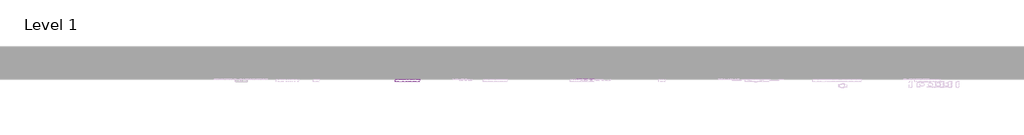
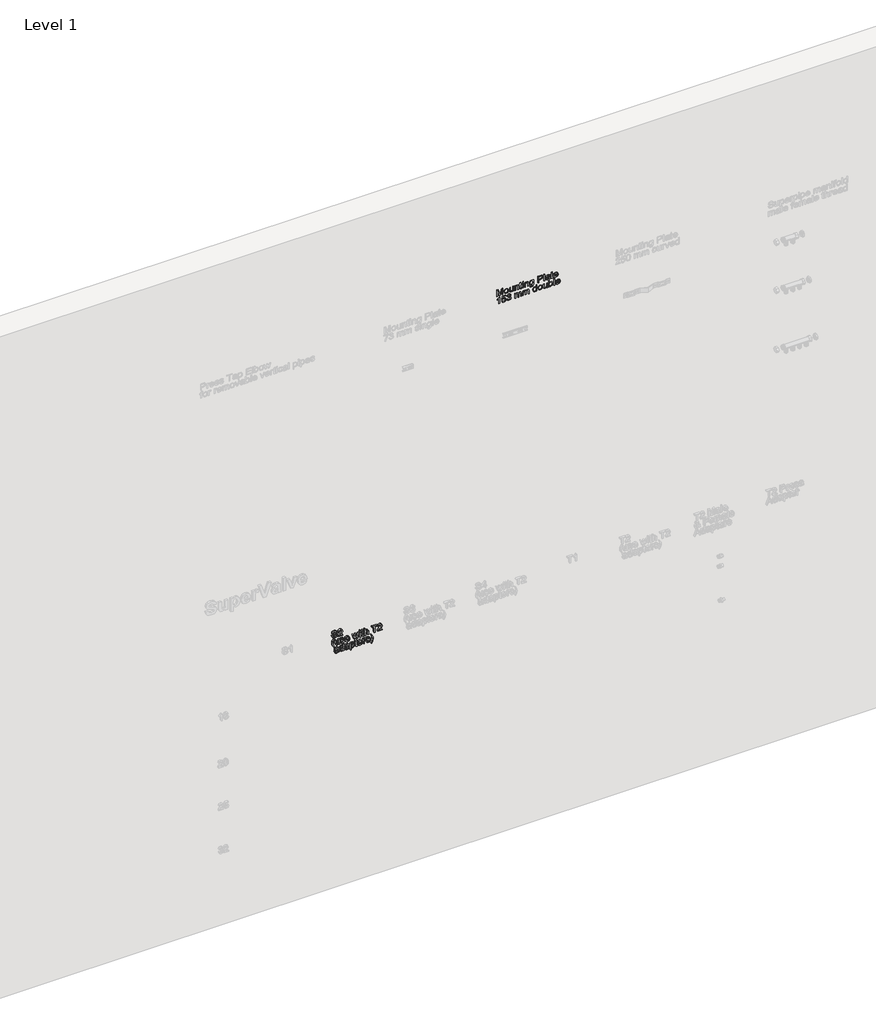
# One storey, part 13 of 57: 2 proxies.
"""IFC4 building model written with IfcOpenShell, lengths in millimetres."""

from ifc_helpers import new_model, si_unit, frame, origin, place, context, project, spatial, polyline, outline, extrude, element, save

model = new_model("IFC4")

# Units and contexts
model_context = context("Model", 3, world=origin())
ifc_project = project(units=[si_unit("LENGTHUNIT", "METRE", prefix="MILLI")], contexts=[model_context])

# Site, building, storey
site = spatial("IfcSite", under=ifc_project)
building = spatial("IfcBuilding", under=site)
storey = spatial("IfcBuildingStorey", under=building, Name="Level 1", Elevation=27.3876384)

# Proxies
placement = place(None, origin())
element("IfcBuildingElementProxy", 1, Name="50mm Arial", ObjectType="50mm Arial", at=placement, inside=storey, context=model_context, shape_type="SweptSolid", body=[
    extrude(outline(polyline([(4250.1944926, 13699.2765914), (4250.1944926, 13705.5551108), (4294.1441282, 13705.5551108), (4250.1944926, 13718.1734632), (4250.1944926, 13726.6838), (4294.1441282, 13739.3021524), (4250.1944926, 13739.3021524), (4250.1944926, 13745.5806718), (4300.4226476, 13745.5806718), (4300.4226476, 13734.7772039), (4265.6332736, 13724.6727118), (4257.6257089, 13722.4286316), (4265.020137, 13720.3562297), (4300.4226476, 13710.0800593), (4300.4226476, 13699.2765914), (4250.1944926, 13699.2765914)])), frame((0.0, 4542.8703674, 0.0), z_axis=(0.0, 1.0, 0.0), x_axis=(0.0, 0.0, 1.0)), (0.0, 0.0, 1.0), 2.0),
    extrude(outline(polyline([(4268.6376432, 13754.213636), (4254.3638218, 13758.7692414), (4249.4096776, 13770.7070121), (4251.6598892, 13779.2112176), (4257.9813281, 13785.140249), (4269.152678, 13787.1758628), (4282.8930706, 13782.5712064), (4287.8656089, 13770.7070121), (4283.7821187, 13759.6460268), (4277.5311905, 13755.5717337), (4268.6376432, 13754.213636)]), holes=[polyline([(4268.649906, 13760.4921554), (4278.368122, 13763.3984231), (4281.5870895, 13770.7070121), (4278.3558593, 13777.9726815), (4268.8461097, 13780.8973434), (4258.9378213, 13777.9910756), (4255.688197, 13770.7070121), (4258.9194272, 13763.3984231), (4268.649906, 13760.4921554)])]), frame((0.0, 4542.8703674, 0.0), z_axis=(0.0, 1.0, 0.0), x_axis=(0.0, 0.0, 1.0)), (0.0, 0.0, 1.0), 2.0),
    extrude(outline(polyline([(4250.1944926, 13817.7836448), (4250.1944926, 13824.0621641), (4287.0807939, 13824.0621641), (4287.0807939, 13817.7836448), (4267.8896165, 13817.7836448), (4260.8937272, 13816.7658379), (4257.0861486, 13813.3016158), (4255.688197, 13808.0592973), (4257.0554918, 13803.3810646), (4260.8140195, 13800.8978612), (4267.2151662, 13800.5177164), (4287.0807939, 13800.5177164), (4287.0807939, 13794.2391971), (4264.2598475, 13794.2391971), (4258.4227865, 13794.6070791), (4253.7997361, 13796.4771459), (4250.6604764, 13800.5483733), (4249.4096776, 13806.4528793), (4251.1908396, 13812.8662887), (4256.5343256, 13817.7836448), (4250.1944926, 13817.7836448)])), frame((0.0, 4542.8703674, 0.0), z_axis=(0.0, 1.0, 0.0), x_axis=(0.0, 0.0, 1.0)), (0.0, 0.0, 1.0), 2.0),
    extrude(outline(polyline([(4250.1944926, 13832.6951283), (4250.1944926, 13838.9736477), (4269.7658147, 13838.9736477), (4279.1222801, 13841.8369959), (4281.5870895, 13848.6489441), (4280.4895749, 13852.9592949), (4277.5526503, 13855.5160747), (4271.9976321, 13856.239576), (4250.1944926, 13856.239576), (4250.1944926, 13862.5180954), (4272.8437607, 13862.5180954), (4278.9138136, 13862.1870016), (4283.5307327, 13860.304672), (4286.6699924, 13856.2579701), (4287.8656089, 13850.3289386), (4286.3818181, 13843.7745077), (4281.930446, 13838.9736477), (4287.0807939, 13838.9736477), (4287.0807939, 13832.6951283), (4250.1944926, 13832.6951283)])), frame((0.0, 4542.8703674, 0.0), z_axis=(0.0, 1.0, 0.0), x_axis=(0.0, 0.0, 1.0)), (0.0, 0.0, 1.0), 2.0),
    extrude(outline(polyline([(4255.4306796, 13884.4929132), (4255.688197, 13881.7583237), (4257.2578269, 13878.5454876), (4260.4951884, 13878.2143938), (4280.8022746, 13878.2143938), (4280.8022746, 13884.4929132), (4287.0807939, 13884.4929132), (4287.0807939, 13878.2143938), (4299.7359346, 13878.2143938), (4296.0448519, 13871.9358744), (4287.0807939, 13871.9358744), (4287.0807939, 13867.2269849), (4280.8022746, 13867.2269849), (4280.8022746, 13871.9358744), (4260.3112474, 13871.9358744), (4253.1865994, 13872.6961639), (4250.45201, 13875.3203888), (4249.4096776, 13880.5811013), (4250.0105516, 13885.2777281), (4255.4306796, 13884.4929132)])), frame((0.0, 4542.8703674, 0.0), z_axis=(0.0, 1.0, 0.0), x_axis=(0.0, 0.0, 1.0)), (0.0, 0.0, 1.0), 2.0),
    extrude(outline(polyline([(13897.049952, 4542.8703674), (13890.7714326, 4542.8703674), (13890.7714326, 4544.8703674), (13897.049952, 4544.8703674), (13897.049952, 4542.8703674)])), frame((0.0, 0.0, 4294.1441282), z_axis=(0.0, 0.0, 1.0), x_axis=(1.0, 0.0, 0.0)), (0.0, 0.0, 1.0), 6.2785194),
    extrude(outline(polyline([(13897.049952, 4542.8703674), (13890.7714326, 4542.8703674), (13890.7714326, 4544.8703674), (13897.049952, 4544.8703674), (13897.049952, 4542.8703674)])), frame((0.0, 0.0, 4250.1944926), z_axis=(0.0, 0.0, 1.0), x_axis=(1.0, 0.0, 0.0)), (0.0, 0.0, 1.0), 36.8863014),
    extrude(outline(polyline([(4250.1944926, 13906.4677311), (4250.1944926, 13912.7462504), (4269.7658147, 13912.7462504), (4279.1222801, 13915.6095986), (4281.5870895, 13922.4215469), (4280.4895749, 13926.7318976), (4277.5526503, 13929.2886775), (4271.9976321, 13930.0121787), (4250.1944926, 13930.0121787), (4250.1944926, 13936.2906981), (4272.8437607, 13936.2906981), (4278.9138136, 13935.9596043), (4283.5307327, 13934.0772748), (4286.6699924, 13930.0305728), (4287.8656089, 13924.1015414), (4286.3818181, 13917.5471105), (4281.930446, 13912.7462504), (4287.0807939, 13912.7462504), (4287.0807939, 13906.4677311), (4250.1944926, 13906.4677311)])), frame((0.0, 4542.8703674, 0.0), z_axis=(0.0, 1.0, 0.0), x_axis=(0.0, 0.0, 1.0)), (0.0, 0.0, 1.0), 2.0),
    extrude(outline(polyline([(4247.0552329, 13943.3540324), (4238.2199336, 13947.1983993), (4235.283009, 13957.6401166), (4237.3676737, 13966.8065096), (4243.0391877, 13972.2450318), (4255.2344759, 13973.9618144), (4287.0807939, 13973.9618144), (4287.0807939, 13967.6832951), (4282.3719044, 13967.6832951), (4287.8656089, 13957.5665402), (4285.4375877, 13949.5651068), (4278.552063, 13944.3657079), (4268.8215842, 13942.5692175), (4255.6759343, 13946.5729999), (4251.564853, 13951.3999182), (4250.1944926, 13957.8731085), (4254.9033821, 13967.6832951), (4247.5825304, 13967.2540994), (4243.143421, 13964.1884161), (4241.5615284, 13957.7627439), (4242.95948, 13951.6681655), (4246.2704179, 13949.6325518), (4247.0552329, 13943.3540324)]), holes=[polyline([(4269.2507799, 13948.8477369), (4278.4784866, 13951.5639323), (4281.5870895, 13958.1551514), (4278.4294357, 13964.8873919), (4269.0668389, 13967.6832951), (4259.5141698, 13964.9670997), (4256.4730119, 13958.2532532), (4259.5325639, 13951.5271441), (4269.2507799, 13948.8477369)])]), frame((0.0, 4542.8703674, 0.0), z_axis=(0.0, 1.0, 0.0), x_axis=(0.0, 0.0, 1.0)), (0.0, 0.0, 1.0), 2.0),
    extrude(outline(polyline([(4250.1944926, 14003.7847815), (4250.1944926, 14010.0633009), (4270.5996806, 14010.0633009), (4270.5996806, 14022.8288061), (4275.03879, 14037.4153272), (4285.8913088, 14041.4558978), (4292.7400453, 14039.9598444), (4297.5960876, 14036.0051129), (4299.944401, 14029.9044032), (4300.4226476, 14022.3996105), (4300.4226476, 14003.7847815), (4250.1944926, 14003.7847815)]), holes=[polyline([(4276.8781999, 14010.0633009), (4294.1441282, 14010.0633009), (4294.1441282, 14023.0495353), (4293.7149326, 14029.3280547), (4290.8699785, 14033.564829), (4285.6705796, 14035.1773784), (4279.1835938, 14032.4427889), (4276.8781999, 14023.1966881), (4276.8781999, 14010.0633009)])]), frame((0.0, 4542.8703674, 0.0), z_axis=(0.0, 1.0, 0.0), x_axis=(0.0, 0.0, 1.0)), (0.0, 0.0, 1.0), 2.0),
    extrude(outline(polyline([(14055.5825664, 4542.8703674), (14049.3040471, 4542.8703674), (14049.3040471, 4544.8703674), (14055.5825664, 4544.8703674), (14055.5825664, 4542.8703674)])), frame((0.0, 0.0, 4250.1944926), z_axis=(0.0, 0.0, 1.0), x_axis=(1.0, 0.0, 0.0)), (0.0, 0.0, 1.0), 50.2281551),
    extrude(outline(polyline([(4254.9033821, 14088.5447932), (4250.1944926, 14090.114423), (4250.1944926, 14096.3929424), (4255.4735992, 14095.1421436), (4266.3813003, 14094.8233126), (4274.1926614, 14094.8233126), (4279.6863658, 14094.5167443), (4283.9476656, 14092.5914951), (4286.7497001, 14088.2934072), (4287.8656089, 14080.6843812), (4286.6025473, 14072.400905), (4283.0095665, 14066.931726), (4276.8781999, 14064.2155306), (4276.093385, 14070.49405), (4280.3792103, 14073.5229451), (4281.5870895, 14079.8750408), (4279.772205, 14086.8157478), (4273.7389402, 14088.508005), (4271.5806992, 14077.6186979), (4270.6364688, 14072.1863072), (4268.5763296, 14067.7901173), (4264.971086, 14064.6324635), (4260.0046791, 14063.4307157), (4252.3895218, 14066.6128949), (4249.4096776, 14075.730237), (4250.6482137, 14082.4563462), (4254.9033821, 14088.5447932)]), holes=[polyline([(4267.4604209, 14088.5447932), (4265.6823246, 14088.508005), (4260.8262822, 14087.5147236), (4257.1903818, 14083.4189707), (4255.688197, 14077.066875), (4257.0493604, 14071.5793019), (4260.4461375, 14069.709235), (4262.8618959, 14070.5676264), (4264.5173649, 14073.0140416), (4265.5351718, 14078.4157756), (4267.4604209, 14088.5447932)])]), frame((0.0, 4542.8703674, 0.0), z_axis=(0.0, 1.0, 0.0), x_axis=(0.0, 0.0, 1.0)), (0.0, 0.0, 1.0), 2.0),
    extrude(outline(polyline([(4255.4306796, 14116.7981304), (4255.688197, 14114.0635409), (4257.2578269, 14110.8507048), (4260.4951884, 14110.519611), (4280.8022746, 14110.519611), (4280.8022746, 14116.7981304), (4287.0807939, 14116.7981304), (4287.0807939, 14110.519611), (4299.7359346, 14110.519611), (4296.0448519, 14104.2410917), (4287.0807939, 14104.2410917), (4287.0807939, 14099.5322021), (4280.8022746, 14099.5322021), (4280.8022746, 14104.2410917), (4260.3112474, 14104.2410917), (4253.1865994, 14105.0013811), (4250.45201, 14107.625606), (4249.4096776, 14112.8863185), (4250.0105516, 14117.5829454), (4255.4306796, 14116.7981304)])), frame((0.0, 4542.8703674, 0.0), z_axis=(0.0, 1.0, 0.0), x_axis=(0.0, 0.0, 1.0)), (0.0, 0.0, 1.0), 2.0),
    extrude(outline(polyline([(4261.1819015, 14148.9019659), (4257.0003095, 14144.8552639), (4255.688197, 14138.6993719), (4258.5208884, 14130.6120994), (4266.6756059, 14127.0007244), (4266.6756059, 14155.2172735), (4268.3678631, 14155.2540617), (4282.7520491, 14150.4899898), (4287.8656089, 14138.2211253), (4282.7397864, 14125.5905101), (4268.3310749, 14120.722205), (4254.3822159, 14125.5414592), (4249.4096776, 14138.5767445), (4252.2914199, 14149.3005047), (4260.3970866, 14155.0578579), (4261.1819015, 14148.9019659)]), holes=[polyline([(4272.9541253, 14127.0007244), (4279.2387761, 14130.4649466), (4281.5870895, 14138.1965998), (4278.6440335, 14146.461682), (4272.9541253, 14148.9755423), (4272.9541253, 14127.0007244)])]), frame((0.0, 4542.8703674, 0.0), z_axis=(0.0, 1.0, 0.0), x_axis=(0.0, 0.0, 1.0)), (0.0, 0.0, 1.0), 2.0),
    extrude(outline(polyline([(4189.2070836, 13720.4665943), (4239.4352387, 13720.4665943), (4239.4352387, 13716.4198923), (4232.7520491, 13710.8342174), (4226.8781999, 13701.6310361), (4220.9430371, 13701.6310361), (4224.1129536, 13708.2406493), (4228.3497279, 13714.1880749), (4189.2070836, 13714.1880749), (4189.2070836, 13720.4665943)])), frame((0.0, 4542.8703674, 0.0), z_axis=(0.0, 1.0, 0.0), x_axis=(0.0, 0.0, 1.0)), (0.0, 0.0, 1.0), 2.0),
    extrude(outline(polyline([(4202.5489373, 13735.3780778), (4192.291161, 13740.2770397), (4188.4222687, 13751.3564192), (4189.9275192, 13758.7508473), (4194.4432707, 13764.4039673), (4206.0928672, 13768.3403046), (4217.6688873, 13763.9686402), (4222.1693104, 13753.2326173), (4218.5395414, 13744.0478302), (4232.3719044, 13746.7333688), (4232.3719044, 13765.9858598), (4238.6504238, 13765.9858598), (4238.6504238, 13741.6565972), (4212.7515313, 13736.1628928), (4211.9667164, 13742.4414121), (4214.7994078, 13745.9669479), (4215.890791, 13751.4790465), (4213.1562015, 13759.431429), (4205.7004597, 13762.0617852), (4197.7112891, 13759.2536193), (4194.7007881, 13751.3809446), (4196.8651605, 13744.8203824), (4203.3337522, 13741.6565972), (4202.5489373, 13735.3780778)])), frame((0.0, 4542.8703674, 0.0), z_axis=(0.0, 1.0, 0.0), x_axis=(0.0, 0.0, 1.0)), (0.0, 0.0, 1.0), 2.0),
    extrude(outline(polyline([(4202.5489373, 13773.8340091), (4192.3586061, 13778.8249415), (4188.4222687, 13789.8368759), (4193.0330564, 13801.9892444), (4204.26572, 13806.7962358), (4212.4327003, 13804.3927401), (4216.7246569, 13797.550135), (4220.8817234, 13802.7004829), (4226.6697335, 13804.4417911), (4233.0034352, 13802.6085125), (4237.7123247, 13797.3110117), (4239.4352387, 13789.738774), (4235.9403598, 13779.7569092), (4226.093385, 13774.618824), (4225.3085701, 13780.8973434), (4231.194682, 13783.9752894), (4233.1567193, 13789.9595032), (4231.2130761, 13795.8701406), (4226.3018515, 13798.1632717), (4220.7590961, 13794.9994865), (4219.0300507, 13786.8692944), (4212.7515313, 13786.1703186), (4213.4382444, 13790.5726398), (4210.8692018, 13797.7095505), (4204.3760846, 13800.5177164), (4197.4844285, 13797.6850251), (4194.7007881, 13790.057605), (4196.7241391, 13783.5767506), (4203.3337522, 13780.1125284), (4202.5489373, 13773.8340091)])), frame((0.0, 4542.8703674, 0.0), z_axis=(0.0, 1.0, 0.0), x_axis=(0.0, 0.0, 1.0)), (0.0, 0.0, 1.0), 2.0),
    extrude(outline(polyline([(4189.2070836, 13833.4799432), (4189.2070836, 13839.7584626), (4207.8096499, 13839.7584626), (4215.3021798, 13840.7149558), (4219.2507799, 13843.8051645), (4220.5996806, 13848.4527404), (4218.5763296, 13853.2168123), (4212.4940139, 13854.6699461), (4189.2070836, 13854.6699461), (4189.2070836, 13860.9484655), (4210.0292046, 13860.9484655), (4218.0858203, 13863.4071435), (4220.5996806, 13869.5814297), (4219.6186619, 13873.1682791), (4217.0373566, 13875.2774692), (4211.7950381, 13875.8599491), (4189.2070836, 13875.8599491), (4189.2070836, 13882.1384684), (4214.4928394, 13882.1384684), (4223.8431735, 13879.2628575), (4226.8781999, 13871.0529577), (4225.0541184, 13864.8664088), (4219.5818737, 13859.9674469), (4224.9590822, 13856.5093561), (4226.8781999, 13850.218574), (4224.9958704, 13844.0749447), (4220.0233321, 13839.7584626), (4226.093385, 13839.7584626), (4226.093385, 13833.4799432), (4189.2070836, 13833.4799432)])), frame((0.0, 4542.8703674, 0.0), z_axis=(0.0, 1.0, 0.0), x_axis=(0.0, 0.0, 1.0)), (0.0, 0.0, 1.0), 2.0),
    extrude(outline(polyline([(4189.2070836, 13891.5562475), (4189.2070836, 13897.8347669), (4207.8096499, 13897.8347669), (4215.3021798, 13898.7912601), (4219.2507799, 13901.8814688), (4220.5996806, 13906.5290447), (4218.5763296, 13911.2931166), (4212.4940139, 13912.7462504), (4189.2070836, 13912.7462504), (4189.2070836, 13919.0247698), (4210.0292046, 13919.0247698), (4218.0858203, 13921.4834478), (4220.5996806, 13927.657734), (4219.6186619, 13931.2445834), (4217.0373566, 13933.3537735), (4211.7950381, 13933.9362534), (4189.2070836, 13933.9362534), (4189.2070836, 13940.2147727), (4214.4928394, 13940.2147727), (4223.8431735, 13937.3391618), (4226.8781999, 13929.129262), (4225.0541184, 13922.9427131), (4219.5818737, 13918.0437512), (4224.9590822, 13914.5856604), (4226.8781999, 13908.2948783), (4224.9958704, 13902.151249), (4220.0233321, 13897.8347669), (4226.093385, 13897.8347669), (4226.093385, 13891.5562475), (4189.2070836, 13891.5562475)])), frame((0.0, 4542.8703674, 0.0), z_axis=(0.0, 1.0, 0.0), x_axis=(0.0, 0.0, 1.0)), (0.0, 0.0, 1.0), 2.0),
    extrude(outline(polyline([(4189.2070836, 13992.0125577), (4189.2070836, 13998.2910771), (4239.4352387, 13998.2910771), (4239.4352387, 13992.0125577), (4220.7223079, 13992.0125577), (4225.1675487, 13987.8800166), (4226.8781999, 13982.0920065), (4224.486967, 13974.0783104), (4217.6075737, 13968.6949705), (4207.6134461, 13966.8984801), (4197.62545, 13968.8482547), (4190.8502899, 13974.3419592), (4188.4222687, 13982.116532), (4190.0991975, 13987.8585568), (4195.1299838, 13992.0125577), (4189.2070836, 13992.0125577)]), holes=[polyline([(4207.6379716, 13973.1769995), (4217.478815, 13975.8257499), (4220.5996806, 13982.4353631), (4217.3500563, 13989.2473113), (4207.159725, 13992.0125577), (4197.7726028, 13989.2963623), (4194.7007881, 13982.6928805), (4197.9197556, 13976.0096909), (4207.6379716, 13973.1769995)])]), frame((0.0, 4542.8703674, 0.0), z_axis=(0.0, 1.0, 0.0), x_axis=(0.0, 0.0, 1.0)), (0.0, 0.0, 1.0), 2.0),
    extrude(outline(polyline([(4207.6502343, 14006.1392263), (4193.3764129, 14010.6948317), (4188.4222687, 14022.6326024), (4190.6724802, 14031.1368079), (4196.9939192, 14037.0658393), (4208.1652691, 14039.1014531), (4221.9056616, 14034.4967967), (4226.8781999, 14022.6326024), (4222.7947098, 14011.5716171), (4216.5437816, 14007.497324), (4207.6502343, 14006.1392263)]), holes=[polyline([(4207.6624971, 14012.4177457), (4217.3807131, 14015.3240134), (4220.5996806, 14022.6326024), (4217.3684504, 14029.8982718), (4207.8587008, 14032.8229337), (4197.9504124, 14029.9166659), (4194.7007881, 14022.6326024), (4197.9320183, 14015.3240134), (4207.6624971, 14012.4177457)])]), frame((0.0, 4542.8703674, 0.0), z_axis=(0.0, 1.0, 0.0), x_axis=(0.0, 0.0, 1.0)), (0.0, 0.0, 1.0), 2.0),
    extrude(outline(polyline([(4189.2070836, 14069.709235), (4189.2070836, 14075.9877544), (4226.093385, 14075.9877544), (4226.093385, 14069.709235), (4206.9022076, 14069.709235), (4199.9063183, 14068.6914282), (4196.0987397, 14065.2272061), (4194.7007881, 14059.9848876), (4196.0680828, 14055.3066549), (4199.8266106, 14052.8234515), (4206.2277573, 14052.4433067), (4226.093385, 14052.4433067), (4226.093385, 14046.1647874), (4203.2724386, 14046.1647874), (4197.4353776, 14046.5326694), (4192.8123272, 14048.4027362), (4189.6730675, 14052.4739636), (4188.4222687, 14058.3784696), (4190.2034307, 14064.791879), (4195.5469167, 14069.709235), (4189.2070836, 14069.709235)])), frame((0.0, 4542.8703674, 0.0), z_axis=(0.0, 1.0, 0.0), x_axis=(0.0, 0.0, 1.0)), (0.0, 0.0, 1.0), 2.0),
    extrude(outline(polyline([(4189.2070836, 14090.899238), (4195.0809328, 14090.899238), (4190.0869347, 14095.139078), (4188.4222687, 14100.7216872), (4193.5848794, 14111.5190238), (4208.2020573, 14116.0133155), (4215.6884559, 14114.9280636), (4221.6665383, 14111.9298254), (4225.5109052, 14107.0492576), (4226.8781999, 14100.7584754), (4220.808147, 14090.899238), (4239.4352387, 14090.899238), (4239.4352387, 14084.6207186), (4189.2070836, 14084.6207186), (4189.2070836, 14090.899238)]), holes=[polyline([(4207.9077517, 14090.899238), (4217.3377935, 14093.7319293), (4220.5996806, 14100.4519071), (4217.4481581, 14107.0186007), (4207.6870225, 14109.7347961), (4197.9626751, 14106.9021048), (4194.7007881, 14100.182127), (4199.1276348, 14092.6160206), (4207.9077517, 14090.899238)])]), frame((0.0, 4542.8703674, 0.0), z_axis=(0.0, 1.0, 0.0), x_axis=(0.0, 0.0, 1.0)), (0.0, 0.0, 1.0), 2.0),
    extrude(outline(polyline([(14129.3551692, 4542.8703674), (14123.0766498, 4542.8703674), (14123.0766498, 4544.8703674), (14129.3551692, 4544.8703674), (14129.3551692, 4542.8703674)])), frame((0.0, 0.0, 4189.2070836), z_axis=(0.0, 0.0, 1.0), x_axis=(1.0, 0.0, 0.0)), (0.0, 0.0, 1.0), 50.2281551),
    extrude(outline(polyline([(4200.1944926, 14164.5982643), (4196.0129005, 14160.5515624), (4194.7007881, 14154.3956703), (4197.5334795, 14146.3083978), (4205.688197, 14142.6970229), (4205.688197, 14170.9135719), (4207.3804542, 14170.9503601), (4221.7646402, 14166.1862883), (4226.8781999, 14153.9174237), (4221.7523775, 14141.2868086), (4207.343666, 14136.4185035), (4193.394807, 14141.2377576), (4188.4222687, 14154.273043), (4191.304011, 14164.9968032), (4199.4096776, 14170.7541564), (4200.1944926, 14164.5982643)]), holes=[polyline([(4211.9667164, 14142.6970229), (4218.2513672, 14146.161245), (4220.5996806, 14153.8928983), (4217.6566246, 14162.1579804), (4211.9667164, 14164.6718407), (4211.9667164, 14142.6970229)])]), frame((0.0, 4542.8703674, 0.0), z_axis=(0.0, 1.0, 0.0), x_axis=(0.0, 0.0, 1.0)), (0.0, 0.0, 1.0), 2.0),
])
element("IfcBuildingElementProxy", 2, Name="50mm Arial", ObjectType="50mm Arial", at=placement, inside=storey, context=model_context, shape_type="SweptSolid", body=[
    extrude(outline(polyline([(2015.6028383, 12468.3036605), (2006.013381, 12471.0137245), (1999.6612852, 12478.1077157), (1997.5520951, 12489.3219851), (1999.508001, 12498.819472), (2004.9894428, 12505.2941951), (2012.5003668, 12507.5444066), (2019.6004893, 12505.5885007), (2024.6895236, 12499.5123164), (2027.841046, 12488.4022802), (2031.3481877, 12478.1506352), (2035.701458, 12476.1518097), (2040.9131196, 12478.9722383), (2043.0713606, 12487.9608218), (2040.8885941, 12496.9248797), (2034.4383965, 12500.4810723), (2034.4383965, 12506.7595917), (2042.2988084, 12504.2702569), (2047.559521, 12497.648381), (2049.34988, 12487.7155671), (2047.6392287, 12478.4081526), (2042.6237709, 12472.0499255), (2035.517517, 12469.8732903), (2029.2757858, 12471.6329925), (2024.6036845, 12476.9734128), (2021.5073444, 12486.8142562), (2019.10998, 12495.9561238), (2016.2588946, 12500.2235549), (2012.3409513, 12501.2658872), (2008.1287025, 12499.874067), (2004.97718, 12495.6372927), (2003.8306145, 12489.0767305), (2005.345062, 12481.5474123), (2009.3181876, 12476.6055308), (2015.6028383, 12474.5821799), (2015.6028383, 12468.3036605)])), frame((0.0, 4529.8703674, 0.0), z_axis=(0.0, 1.0, 0.0), x_axis=(0.0, 0.0, 1.0)), (0.0, 0.0, 1.0), 15.0),
    extrude(outline(polyline([(2004.6154294, 12546.7851528), (2004.6154294, 12522.1247964), (2007.8098714, 12524.9574877), (2013.8492675, 12532.1802376), (2022.4515748, 12541.1749524), (2028.6074669, 12544.8844291), (2034.5610238, 12546.0003379), (2044.5428886, 12541.8616654), (2048.5650651, 12530.6228705), (2044.9475588, 12519.4208637), (2034.4383965, 12514.6077409), (2033.6535816, 12520.8862603), (2039.9934146, 12523.5288793), (2042.2865457, 12530.4879804), (2039.9382323, 12537.1650386), (2034.1808791, 12539.7218185), (2027.0684938, 12537.0117544), (2016.6083825, 12526.1714983), (2009.3304503, 12518.3110864), (2002.6656548, 12514.4973763), (1998.33691, 12513.822926), (1998.33691, 12546.7851528), (2004.6154294, 12546.7851528)])), frame((0.0, 4529.8703674, 0.0), z_axis=(0.0, 1.0, 0.0), x_axis=(0.0, 0.0, 1.0)), (0.0, 0.0, 1.0), 15.0),
    extrude(outline(polyline([(1923.2228325, 12482.4303291), (1923.2228325, 12487.1392186), (1939.305407, 12478.8986619), (1955.4002443, 12476.1518097), (1967.9940713, 12477.7337023), (1977.6325796, 12481.2653694), (1987.5776562, 12487.1392186), (1987.5776562, 12482.4303291), (1970.7041353, 12472.5956171), (1955.4370325, 12469.8732903), (1937.950375, 12473.5153221), (1923.2228325, 12482.4303291)])), frame((0.0, 4529.8703674, 0.0), z_axis=(0.0, 1.0, 0.0), x_axis=(0.0, 0.0, 1.0)), (0.0, 0.0, 1.0), 15.0),
    extrude(outline(polyline([(1937.3495011, 12516.9621857), (1937.3495011, 12523.2407051), (1974.2358025, 12523.2407051), (1974.2358025, 12516.9621857), (1955.0446251, 12516.9621857), (1948.0487358, 12515.9443789), (1944.2411571, 12512.4801567), (1942.8432056, 12507.2378383), (1944.2105003, 12502.5596056), (1947.969028, 12500.0764021), (1954.3701747, 12499.6962574), (1974.2358025, 12499.6962574), (1974.2358025, 12493.417738), (1951.4148561, 12493.417738), (1945.5777951, 12493.78562), (1940.9547447, 12495.6556868), (1937.815485, 12499.7269142), (1936.5646862, 12505.6314203), (1938.3458482, 12512.0448297), (1943.6893342, 12516.9621857), (1937.3495011, 12516.9621857)])), frame((0.0, 4529.8703674, 0.0), z_axis=(0.0, 1.0, 0.0), x_axis=(0.0, 0.0, 1.0)), (0.0, 0.0, 1.0), 15.0),
    extrude(outline(polyline([(1948.33691, 12529.5192245), (1939.5322676, 12534.3262159), (1936.5646862, 12545.2768366), (1938.1036592, 12553.0514094), (1942.4630608, 12558.3059906), (1948.4718001, 12560.1270065), (1953.9287164, 12558.5757707), (1957.2764425, 12554.2960769), (1960.2317612, 12545.0806329), (1961.5683991, 12539.6727675), (1962.954088, 12537.3305855), (1964.7812352, 12536.5825588), (1967.5526129, 12538.3851806), (1968.742098, 12544.3939198), (1967.4974306, 12549.9182811), (1964.0332085, 12552.2788572), (1964.8180234, 12558.5573766), (1970.4527493, 12556.3991356), (1973.7882127, 12551.5430933), (1975.0206174, 12543.9034105), (1974.2541966, 12538.5016765), (1972.3963925, 12534.5101569), (1968.8218058, 12531.4322109), (1964.1435731, 12530.3040394), (1959.0790643, 12531.7081224), (1955.4922148, 12535.8345321), (1952.4204002, 12545.2890993), (1950.6300411, 12551.7515597), (1947.8096125, 12553.8484871), (1944.3269963, 12551.7638225), (1942.8432056, 12545.3626757), (1944.4618863, 12538.7040116), (1949.1217249, 12535.7977439), (1948.33691, 12529.5192245)])), frame((0.0, 4529.8703674, 0.0), z_axis=(0.0, 1.0, 0.0), x_axis=(0.0, 0.0, 1.0)), (0.0, 0.0, 1.0), 15.0),
    extrude(outline(polyline([(1948.33691, 12593.0156568), (1944.155318, 12588.9689549), (1942.8432056, 12582.8130628), (1945.6758969, 12574.7257903), (1953.8306145, 12571.1144154), (1953.8306145, 12599.3309644), (1955.5228717, 12599.3677526), (1969.9070577, 12594.6036808), (1975.0206174, 12582.3348163), (1969.8947949, 12569.7042011), (1955.4860835, 12564.835896), (1941.5372245, 12569.6551502), (1936.5646862, 12582.6904355), (1939.4464285, 12593.4141957), (1947.5520951, 12599.1715489), (1948.33691, 12593.0156568)]), holes=[polyline([(1960.1091339, 12571.1144154), (1966.3937846, 12574.5786375), (1968.742098, 12582.3102908), (1965.7990421, 12590.5753729), (1960.1091339, 12593.0892332), (1960.1091339, 12571.1144154)])]), frame((0.0, 4529.8703674, 0.0), z_axis=(0.0, 1.0, 0.0), x_axis=(0.0, 0.0, 1.0)), (0.0, 0.0, 1.0), 15.0),
    extrude(outline(polyline([(1937.3495011, 12631.3857489), (1937.3495011, 12639.0622199), (1965.7254657, 12645.2794256), (1958.9809624, 12646.6773772), (1937.3495011, 12651.4966313), (1937.3495011, 12659.0872632), (1974.2358025, 12670.3935032), (1974.2358025, 12663.8452037), (1952.8618586, 12657.4685824), (1945.7862615, 12655.4820196), (1952.4939766, 12654.0963308), (1974.2358025, 12649.0563474), (1974.2358025, 12641.5760802), (1952.4326629, 12636.5115714), (1945.0259721, 12634.9542043), (1952.7147058, 12633.0534807), (1974.2358025, 12626.6891221), (1974.2358025, 12620.1653481), (1937.3495011, 12631.3857489)])), frame((0.0, 4529.8703674, 0.0), z_axis=(0.0, 1.0, 0.0), x_axis=(0.0, 0.0, 1.0)), (0.0, 0.0, 1.0), 15.0),
    extrude(outline(polyline([(12680.9885046, 4529.8703674), (12674.7099852, 4529.8703674), (12674.7099852, 4544.8703674), (12680.9885046, 4544.8703674), (12680.9885046, 4529.8703674)])), frame((0.0, 0.0, 1981.2991368), z_axis=(0.0, 0.0, 1.0), x_axis=(1.0, 0.0, 0.0)), (0.0, 0.0, 1.0), 6.2785194),
    extrude(outline(polyline([(12680.9885046, 4529.8703674), (12674.7099852, 4529.8703674), (12674.7099852, 4544.8703674), (12680.9885046, 4544.8703674), (12680.9885046, 4529.8703674)])), frame((0.0, 0.0, 1937.3495011), z_axis=(0.0, 0.0, 1.0), x_axis=(1.0, 0.0, 0.0)), (0.0, 0.0, 1.0), 36.8863014),
    extrude(outline(polyline([(1942.5856882, 12703.7481374), (1942.8432056, 12701.0135479), (1944.4128354, 12697.8007118), (1947.650197, 12697.469618), (1967.9572831, 12697.469618), (1967.9572831, 12703.7481374), (1974.2358025, 12703.7481374), (1974.2358025, 12697.469618), (1986.8909431, 12697.469618), (1983.1998604, 12691.1910986), (1974.2358025, 12691.1910986), (1974.2358025, 12686.4822091), (1967.9572831, 12686.4822091), (1967.9572831, 12691.1910986), (1947.466256, 12691.1910986), (1940.341608, 12691.9513881), (1937.6070185, 12694.575613), (1936.5646862, 12699.8363255), (1937.1655601, 12704.5329523), (1942.5856882, 12703.7481374)])), frame((0.0, 4529.8703674, 0.0), z_axis=(0.0, 1.0, 0.0), x_axis=(0.0, 0.0, 1.0)), (0.0, 0.0, 1.0), 15.0),
    extrude(outline(polyline([(1937.3495011, 12710.0266568), (1937.3495011, 12716.3051762), (1956.9453487, 12716.3051762), (1963.5549619, 12717.3291144), (1967.3441464, 12720.7626797), (1968.742098, 12725.9068962), (1966.6696961, 12731.572279), (1960.0478202, 12733.5711045), (1937.3495011, 12733.5711045), (1937.3495011, 12739.8496239), (1960.6977451, 12739.8496239), (1968.9505645, 12738.5620369), (1973.408068, 12734.282343), (1975.0206174, 12727.2312714), (1969.10998, 12716.3051762), (1987.5776562, 12716.3051762), (1987.5776562, 12710.0266568), (1937.3495011, 12710.0266568)])), frame((0.0, 4529.8703674, 0.0), z_axis=(0.0, 1.0, 0.0), x_axis=(0.0, 0.0, 1.0)), (0.0, 0.0, 1.0), 15.0),
    extrude(outline(polyline([(1937.3495011, 12781.4448148), (1937.3495011, 12787.7233342), (1981.2991368, 12787.7233342), (1981.2991368, 12804.2044475), (1987.5776562, 12804.2044475), (1987.5776562, 12764.9637014), (1981.2991368, 12764.9637014), (1981.2991368, 12781.4448148), (1937.3495011, 12781.4448148)])), frame((0.0, 4529.8703674, 0.0), z_axis=(0.0, 1.0, 0.0), x_axis=(0.0, 0.0, 1.0)), (0.0, 0.0, 1.0), 15.0),
    extrude(outline(polyline([(1943.6280205, 12841.0907489), (1943.6280205, 12816.4303925), (1946.8224625, 12819.2630839), (1952.8618586, 12826.4858337), (1961.4641659, 12835.4805485), (1967.6200579, 12839.1900253), (1973.5736149, 12840.305934), (1983.5554797, 12836.1672616), (1987.5776562, 12824.9284666), (1983.9601499, 12813.7264599), (1973.4509876, 12808.9133371), (1972.6661726, 12815.1918565), (1979.0060057, 12817.8344755), (1981.2991368, 12824.7935765), (1978.9508234, 12831.4706348), (1973.1934702, 12834.0274146), (1966.0810849, 12831.3173506), (1955.6209735, 12820.4770945), (1948.3430414, 12812.6166825), (1941.6782459, 12808.8029725), (1937.3495011, 12808.1285222), (1937.3495011, 12841.0907489), (1943.6280205, 12841.0907489)])), frame((0.0, 4529.8703674, 0.0), z_axis=(0.0, 1.0, 0.0), x_axis=(0.0, 0.0, 1.0)), (0.0, 0.0, 1.0), 15.0),
    extrude(outline(polyline([(1881.0709817, 12513.0381111), (1876.3620922, 12514.6077409), (1876.3620922, 12520.8862603), (1881.6411988, 12519.6354615), (1892.5489, 12519.3166305), (1900.360261, 12519.3166305), (1905.8539655, 12519.0100622), (1910.1152652, 12517.084813), (1912.9172998, 12512.7867251), (1914.0332085, 12505.1776991), (1912.770147, 12496.8942229), (1909.1771661, 12491.4250439), (1903.0457996, 12488.7088485), (1902.2609846, 12494.9873679), (1906.5468099, 12498.016263), (1907.7546891, 12504.3683587), (1905.9398046, 12511.3090657), (1899.9065399, 12513.0013229), (1897.7482988, 12502.1120158), (1896.8040684, 12496.679625), (1894.7439292, 12492.2834352), (1891.1386857, 12489.1257814), (1886.1722787, 12487.9240336), (1878.5571214, 12491.1062128), (1875.5772773, 12500.2235549), (1876.8158133, 12506.9496641), (1881.0709817, 12513.0381111)]), holes=[polyline([(1893.6280205, 12513.0381111), (1891.8499242, 12513.0013229), (1886.9938818, 12512.0080415), (1883.3579815, 12507.9122886), (1881.8557966, 12501.5601928), (1883.21696, 12496.0726198), (1886.6137371, 12494.2025529), (1889.0294955, 12495.0609443), (1890.6849645, 12497.5073595), (1891.7027714, 12502.9090935), (1893.6280205, 12513.0381111)])]), frame((0.0, 4529.8703674, 0.0), z_axis=(0.0, 1.0, 0.0), x_axis=(0.0, 0.0, 1.0)), (0.0, 0.0, 1.0), 15.0),
    extrude(outline(polyline([(1876.3620922, 12550.7092274), (1876.3620922, 12556.9877468), (1926.5902473, 12556.9877468), (1926.5902473, 12550.7092274), (1907.8773164, 12550.7092274), (1912.3225572, 12546.5766863), (1914.0332085, 12540.7886763), (1911.6419755, 12532.7749801), (1904.7625822, 12527.3916403), (1894.7684547, 12525.5951499), (1884.7804585, 12527.5449244), (1878.0052984, 12533.0386289), (1875.5772773, 12540.8132017), (1877.254206, 12546.5552265), (1882.2849923, 12550.7092274), (1876.3620922, 12550.7092274)]), holes=[polyline([(1894.7929801, 12531.8736692), (1904.6338235, 12534.5224196), (1907.7546891, 12541.1320328), (1904.5050648, 12547.9439811), (1894.3147335, 12550.7092274), (1884.9276113, 12547.993032), (1881.8557966, 12541.3895502), (1885.0747641, 12534.7063606), (1894.7929801, 12531.8736692)])]), frame((0.0, 4529.8703674, 0.0), z_axis=(0.0, 1.0, 0.0), x_axis=(0.0, 0.0, 1.0)), (0.0, 0.0, 1.0), 15.0),
    extrude(outline(polyline([(1881.0709817, 12589.9499736), (1876.3620922, 12591.5196034), (1876.3620922, 12597.7981228), (1881.6411988, 12596.547324), (1892.5489, 12596.2284929), (1900.360261, 12596.2284929), (1905.8539655, 12595.9219246), (1910.1152652, 12593.9966755), (1912.9172998, 12589.6985875), (1914.0332085, 12582.0895616), (1912.770147, 12573.8060853), (1909.1771661, 12568.3369063), (1903.0457996, 12565.6207109), (1902.2609846, 12571.8992303), (1906.5468099, 12574.9281254), (1907.7546891, 12581.2802212), (1905.9398046, 12588.2209282), (1899.9065399, 12589.9131854), (1897.7482988, 12579.0238783), (1896.8040684, 12573.5914875), (1894.7439292, 12569.1952977), (1891.1386857, 12566.0376439), (1886.1722787, 12564.835896), (1878.5571214, 12568.0180753), (1875.5772773, 12577.1354174), (1876.8158133, 12583.8615265), (1881.0709817, 12589.9499736)]), holes=[polyline([(1893.6280205, 12589.9499736), (1891.8499242, 12589.9131854), (1886.9938818, 12588.919904), (1883.3579815, 12584.8241511), (1881.8557966, 12578.4720553), (1883.21696, 12572.9844822), (1886.6137371, 12571.1144154), (1889.0294955, 12571.9728067), (1890.6849645, 12574.419222), (1891.7027714, 12579.820956), (1893.6280205, 12589.9499736)])]), frame((0.0, 4529.8703674, 0.0), z_axis=(0.0, 1.0, 0.0), x_axis=(0.0, 0.0, 1.0)), (0.0, 0.0, 1.0), 15.0),
    extrude(outline(polyline([(1862.2354236, 12604.8614571), (1862.2354236, 12611.1399765), (1881.2671854, 12611.1399765), (1877.1898267, 12615.1192334), (1875.5772773, 12620.582281), (1877.9869043, 12628.5224007), (1884.9153486, 12634.2736226), (1895.0872857, 12636.254054), (1904.7625822, 12634.5004832), (1911.6051873, 12629.3010843), (1914.0332085, 12621.3425705), (1912.2980317, 12615.480984), (1907.0925015, 12611.1399765), (1913.2483936, 12611.1399765), (1913.2483936, 12604.8614571), (1862.2354236, 12604.8614571)]), holes=[polyline([(1894.5109373, 12611.1399765), (1904.3640434, 12614.0401129), (1907.7546891, 12620.7049084), (1904.5663785, 12627.2409451), (1894.9769211, 12629.9755346), (1885.05637, 12627.1735001), (1881.8557966, 12620.447391), (1884.9460054, 12613.8561719), (1894.5109373, 12611.1399765)])]), frame((0.0, 4529.8703674, 0.0), z_axis=(0.0, 1.0, 0.0), x_axis=(0.0, 0.0, 1.0)), (0.0, 0.0, 1.0), 15.0),
    extrude(outline(polyline([(1881.5982792, 12656.659242), (1881.8557966, 12653.9246525), (1883.4254265, 12650.7118164), (1886.662788, 12650.3807226), (1906.9698742, 12650.3807226), (1906.9698742, 12656.659242), (1913.2483936, 12656.659242), (1913.2483936, 12650.3807226), (1925.9035342, 12650.3807226), (1922.2124515, 12644.1022032), (1913.2483936, 12644.1022032), (1913.2483936, 12639.3933137), (1906.9698742, 12639.3933137), (1906.9698742, 12644.1022032), (1886.478847, 12644.1022032), (1879.3541991, 12644.8624927), (1876.6196096, 12647.4867176), (1875.5772773, 12652.7474301), (1876.1781512, 12657.4440569), (1881.5982792, 12656.659242)])), frame((0.0, 4529.8703674, 0.0), z_axis=(0.0, 1.0, 0.0), x_axis=(0.0, 0.0, 1.0)), (0.0, 0.0, 1.0), 15.0),
    extrude(outline(polyline([(1887.3495011, 12688.7630775), (1883.1679091, 12684.7163755), (1881.8557966, 12678.5604835), (1884.688488, 12670.4732109), (1892.8432056, 12666.861836), (1892.8432056, 12695.078385), (1894.5354627, 12695.1151732), (1908.9196488, 12690.3511014), (1914.0332085, 12678.0822369), (1908.907386, 12665.4516217), (1894.4986745, 12660.5833166), (1880.5498156, 12665.4025708), (1875.5772773, 12678.4378561), (1878.4590196, 12689.1616163), (1886.5646862, 12694.9189695), (1887.3495011, 12688.7630775)]), holes=[polyline([(1899.1217249, 12666.861836), (1905.4063757, 12670.3260581), (1907.7546891, 12678.0577114), (1904.8116331, 12686.3227936), (1899.1217249, 12688.8366539), (1899.1217249, 12666.861836)])]), frame((0.0, 4529.8703674, 0.0), z_axis=(0.0, 1.0, 0.0), x_axis=(0.0, 0.0, 1.0)), (0.0, 0.0, 1.0), 15.0),
    extrude(outline(polyline([(1876.3620922, 12701.3936926), (1876.3620922, 12707.672212), (1895.7494733, 12707.672212), (1903.0825878, 12708.6900189), (1906.5161531, 12710.9524931), (1907.7546891, 12714.5025544), (1906.4671021, 12718.9171383), (1912.0956966, 12721.0140657), (1914.0332085, 12714.7110209), (1912.8191979, 12710.7869462), (1907.7914773, 12706.8873971), (1913.2483936, 12706.8873971), (1913.2483936, 12701.3936926), (1876.3620922, 12701.3936926)])), frame((0.0, 4529.8703674, 0.0), z_axis=(0.0, 1.0, 0.0), x_axis=(0.0, 0.0, 1.0)), (0.0, 0.0, 1.0), 15.0),
    extrude(outline(polyline([(1887.3495011, 12722.5836955), (1878.5448587, 12727.390687), (1875.5772773, 12738.3413077), (1877.1162503, 12746.1158805), (1881.4756519, 12751.3704617), (1887.4843912, 12753.1914775), (1892.9413074, 12751.6402418), (1896.2890336, 12747.3605479), (1899.2443523, 12738.1451039), (1900.5809902, 12732.7372386), (1901.966679, 12730.3950566), (1903.7938263, 12729.6470299), (1906.565204, 12731.4496516), (1907.7546891, 12737.4583909), (1906.5100217, 12742.9827522), (1903.0457996, 12745.3433283), (1903.8306145, 12751.6218477), (1909.4653404, 12749.4636067), (1912.8008038, 12744.6075643), (1914.0332085, 12736.9678816), (1913.2667877, 12731.5661476), (1911.4089836, 12727.5746279), (1907.8343969, 12724.4966819), (1903.1561642, 12723.3685105), (1898.0916554, 12724.7725934), (1894.5048059, 12728.8990031), (1891.4329912, 12738.3535704), (1889.6426322, 12744.8160308), (1886.8222036, 12746.9129582), (1883.3395874, 12744.8282935), (1881.8557966, 12738.4271468), (1883.4744774, 12731.7684827), (1888.134316, 12728.8622149), (1887.3495011, 12722.5836955)])), frame((0.0, 4529.8703674, 0.0), z_axis=(0.0, 1.0, 0.0), x_axis=(0.0, 0.0, 1.0)), (0.0, 0.0, 1.0), 15.0),
    extrude(outline(polyline([(1862.2354236, 12761.8244417), (1876.9629661, 12770.7210546), (1894.4496236, 12774.3814805), (1909.7167264, 12771.6591537), (1926.5902473, 12761.8244417), (1926.5902473, 12757.1155522), (1916.5470688, 12763.0261896), (1906.8962978, 12766.5210685), (1894.4128354, 12768.1029611), (1878.3179981, 12765.3561089), (1862.2354236, 12757.1155522), (1862.2354236, 12761.8244417)])), frame((0.0, 4529.8703674, 0.0), z_axis=(0.0, 1.0, 0.0), x_axis=(0.0, 0.0, 1.0)), (0.0, 0.0, 1.0), 15.0),
])

save(model, "model.ifc")
